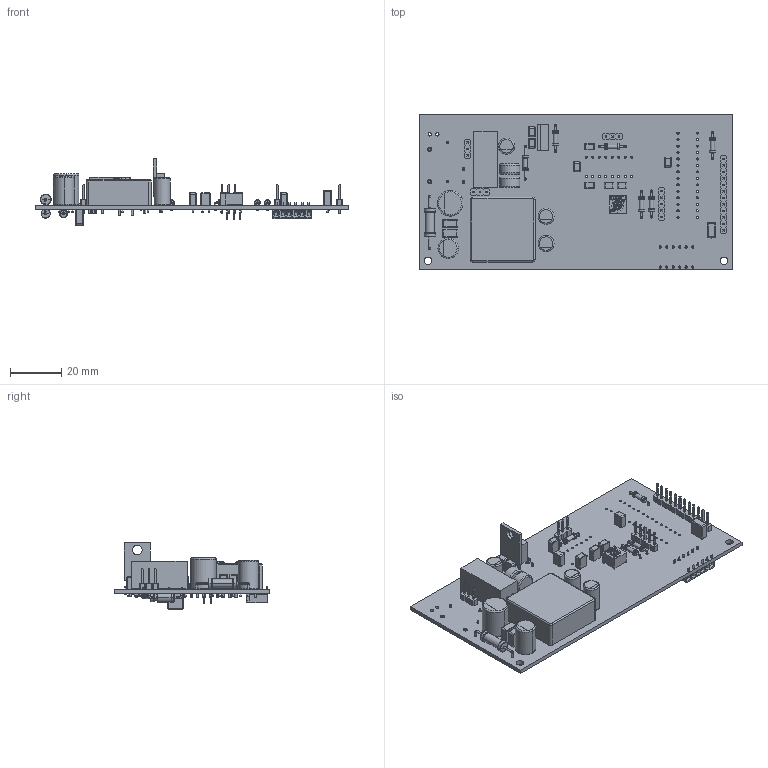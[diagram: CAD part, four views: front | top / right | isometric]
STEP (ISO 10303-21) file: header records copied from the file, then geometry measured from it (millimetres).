
FILE_DESCRIPTION(('Open CASCADE Model'),'2;1');
FILE_NAME('Open CASCADE Shape Model','2025-04-22T21:24:39',('Author'),( 'Open CASCADE'),'Open CASCADE STEP processor 6.8','Open CASCADE 6.8' ,'Unknown');
FILE_SCHEMA(('AUTOMOTIVE_DESIGN { 1 0 10303 214 1 1 1 1 }'));
Products named in the file (1): PCB
Bounding box: 123 x 61 x 25.96 mm (x, y, z)
Volume: 11934.6 mm3; surface area: 26811 mm2
Topology: 2 solids, 1715 shells, 2483 faces, 10212 edges, 9445 vertices
Faces by surface type: plane 1597, cylinder 603, torus 189, cone 74, revolution 10, bspline 8, sphere 2
Full cylindrical faces by diameter (mm): 0.6 x9, 0.8 x61, 0.85 x14, 0.9 x14, 1 x50, 1.2 x13, 1.3 x2, 1.6 x2, 3 x2, 6.3 x3
Entity records: 122212 total; most frequent: CARTESIAN_POINT 23718, DIRECTION 17648, ORIENTED_EDGE 12234, EDGE_CURVE 10210, VERTEX_POINT 9445, LINE 7532, VECTOR 7532, AXIS2_PLACEMENT_3D 5053
